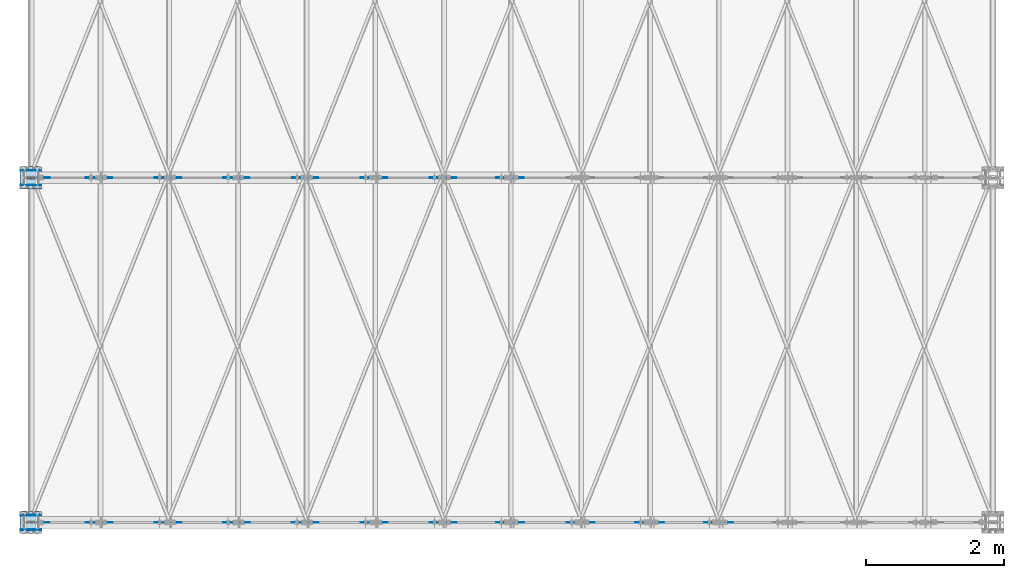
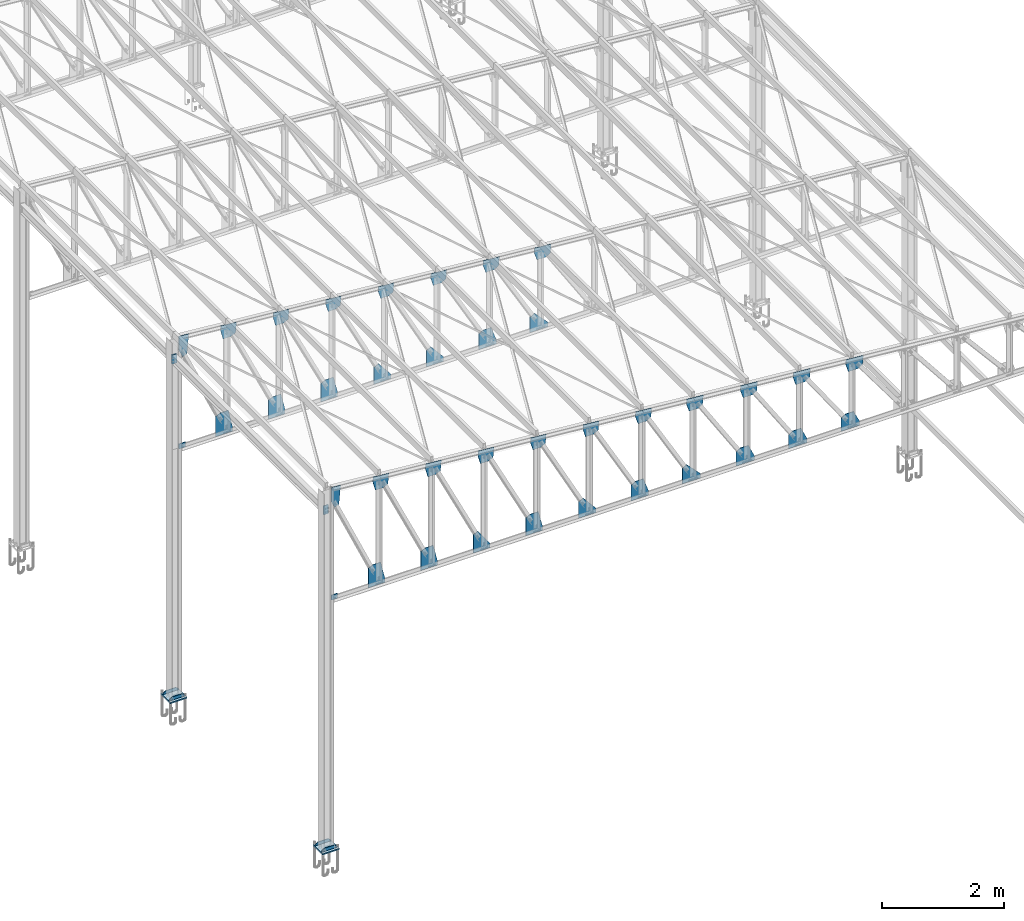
# One storey, part 5 of 251: 47 plates.
"""IFC4 building model written with IfcOpenShell, lengths in metres."""

from ifc_helpers import new_model, si_unit, frame, origin_with_axes, place, context, project, spatial, polyline, outline, extrude, type_object, element, save


model = new_model("IFC4")

# Units and contexts
model_context = context("Model", 3, precision=1e-05, world=origin_with_axes())
ifc_project = project(units=[si_unit("LENGTHUNIT", "METRE"), si_unit("AREAUNIT", "SQUARE_METRE"), si_unit("VOLUMEUNIT", "CUBIC_METRE"), si_unit("MASSUNIT", "GRAM", prefix="KILO"), si_unit("TIMEUNIT", "SECOND"), si_unit("PLANEANGLEUNIT", "RADIAN"), si_unit("SOLIDANGLEUNIT", "STERADIAN"), si_unit("THERMODYNAMICTEMPERATUREUNIT", "DEGREE_CELSIUS")], contexts=[model_context])

# Site, building, storey
placement_1 = place(None, origin_with_axes())
site = spatial("IfcSite", under=ifc_project, at=placement_1, Name="Italia", CompositionType="ELEMENT")
building = spatial("IfcBuilding", under=site, at=placement_1, Name="Deposito", CompositionType="ELEMENT")
storey = spatial("IfcBuildingStorey", under=building, at=placement_1, Name="Storey 0", CompositionType="ELEMENT", Elevation=0.0)

# Plates
plate_type_1 = type_object("IfcPlateType", Name="Collegamento -069_-070", PredefinedType="SHEET")
placement_2 = place(placement_1, origin_with_axes())
plate_1_placement = place(placement_2, origin_with_axes())
element("IfcPlate", 1, at=plate_1_placement, inside=storey, type_object=plate_type_1, Name="Collegamento -069_-070", context=model_context, shape_type="SweptSolid", body=[
    extrude(outline(polyline([(0.0, 0.0), (-0.0909996, 0.0), (-0.0909996, 0.18), (0.0, 0.18), (0.0, 0.0)])), frame((6.0955, 0.018, 6.73018), z_axis=(0.0, -1.0, 0.0), x_axis=(1.0, 0.0, 0.0)), (0.0, 0.0, 1.0), 0.015),
])
plate_type_2 = type_object("IfcPlateType", Name="Collegamento -070_-069", PredefinedType="SHEET")
plate_2_placement = place(placement_2, origin_with_axes())
element("IfcPlate", 2, at=plate_2_placement, inside=storey, type_object=plate_type_2, Name="Collegamento -070_-069", context=model_context, shape_type="SweptSolid", body=[
    extrude(outline(polyline([(0.0, 0.0), (-0.0909996, 0.0), (-0.0909996, 0.18), (0.0, 0.18), (0.0, 0.0)])), frame((6.0045, 4.982, 6.73018), z_axis=(0.0, 1.0, 0.0), x_axis=(-1.0, 0.0, 0.0)), (0.0, 0.0, 1.0), 0.0149999),
])
plate_type_3 = type_object("IfcPlateType", Name="Collegamento -070_-071", PredefinedType="SHEET")
plate_3_placement = place(placement_2, origin_with_axes())
element("IfcPlate", 3, at=plate_3_placement, inside=storey, type_object=plate_type_3, Name="Collegamento -070_-071", context=model_context, shape_type="SweptSolid", body=[
    extrude(outline(polyline([(0.0, 0.0), (-0.0909996, 0.0), (-0.0909996, 0.18), (0.0, 0.18), (0.0, 0.0)])), frame((6.0955, 5.018, 6.73018), z_axis=(0.0, -1.0, 0.0), x_axis=(1.0, 0.0, 0.0)), (0.0, 0.0, 1.0), 0.0149999),
])
plate_type_4 = type_object("IfcPlateType", Name="Collegamenti 0014_-001 0016_-054 0018_-056 0032_-002 0033_-058 0047_-003 0048_-060 0062_-004 0063_-005 0079_-008", PredefinedType="SHEET")
plate_4_placement = place(placement_2, origin_with_axes())
element("IfcPlate", 4, at=plate_4_placement, inside=storey, type_object=plate_type_4, Name="Collegamenti 0014_-001 0016_-054 0018_-056 0032_-002 0033_-058 0047_-003 0048_-060 0062_-004 0063_-005 0079_-008", context=model_context, shape_type="SweptSolid", body=[
    extrude(outline(polyline([(0.0, 0.0), (0.32, 0.0), (0.32, -0.32), (0.0, -0.32), (0.0, 0.0)])), frame((6.21, -0.16, 0.075), z_axis=(0.0, 0.0, -1.0), x_axis=(0.0, 1.0, 0.0)), (0.0, 0.0, 1.0), 0.025),
])
plate_type_5 = type_object("IfcPlateType", Name="Collegamenti 0014_-001 0016_-054 0018_-056 0032_-002 0033_-058 0047_-003 0048_-060 0062_-004 0063_-005 0079_-008", PredefinedType="SHEET")
plate_5_placement = place(placement_2, origin_with_axes())
element("IfcPlate", 5, at=plate_5_placement, inside=storey, type_object=plate_type_5, Name="Collegamenti 0014_-001 0016_-054 0018_-056 0032_-002 0033_-058 0047_-003 0048_-060 0062_-004 0063_-005 0079_-008", context=model_context, shape_type="SweptSolid", body=[
    extrude(outline(polyline([(0.0, 0.0), (0.0550003, 0.04), (0.244999, 0.04), (0.299999, 0.0), (0.299999, -0.02), (0.0, -0.02), (0.0, 0.0)])), frame((6.2, 0.1, 0.095), z_axis=(0.0, 1.0, 0.0), x_axis=(-1.0, 0.0, 0.0)), (0.0, 0.0, 1.0), 0.01),
])
plate_type_6 = type_object("IfcPlateType", Name="Collegamenti 0014_-001 0016_-054 0018_-056 0032_-002 0033_-058 0047_-003 0048_-060 0062_-004 0063_-005 0079_-008", PredefinedType="SHEET")
plate_6_placement = place(placement_2, origin_with_axes())
element("IfcPlate", 6, at=plate_6_placement, inside=storey, type_object=plate_type_6, Name="Collegamenti 0014_-001 0016_-054 0018_-056 0032_-002 0033_-058 0047_-003 0048_-060 0062_-004 0063_-005 0079_-008", context=model_context, shape_type="SweptSolid", body=[
    extrude(outline(polyline([(0.0, 0.0), (0.0550003, 0.04), (0.244999, 0.04), (0.299999, 0.0), (0.299999, -0.02), (0.0, -0.02), (0.0, 0.0)])), frame((6.2, -0.11, 0.095), z_axis=(0.0, 1.0, 0.0), x_axis=(-1.0, 0.0, 0.0)), (0.0, 0.0, 1.0), 0.01),
])
plate_type_7 = type_object("IfcPlateType", Name="Collegamenti 0014_-001 0016_-054 0018_-056 0032_-002 0033_-058 0047_-003 0048_-060 0062_-004 0063_-005 0079_-008", PredefinedType="SHEET")
plate_7_placement = place(placement_2, origin_with_axes())
element("IfcPlate", 7, at=plate_7_placement, inside=storey, type_object=plate_type_7, Name="Collegamenti 0014_-001 0016_-054 0018_-056 0032_-002 0033_-058 0047_-003 0048_-060 0062_-004 0063_-005 0079_-008", context=model_context, shape_type="SweptSolid", body=[
    extrude(outline(polyline([(0.0, 0.0), (0.32, 0.0), (0.32, -0.32), (0.0, -0.32), (0.0, 0.0)])), frame((6.21, 4.84, 0.075), z_axis=(0.0, 0.0, -1.0), x_axis=(0.0, 1.0, 0.0)), (0.0, 0.0, 1.0), 0.025),
])
plate_type_8 = type_object("IfcPlateType", Name="Collegamenti 0014_-001 0016_-054 0018_-056 0032_-002 0033_-058 0047_-003 0048_-060 0062_-004 0063_-005 0079_-008", PredefinedType="SHEET")
plate_8_placement = place(placement_2, origin_with_axes())
element("IfcPlate", 8, at=plate_8_placement, inside=storey, type_object=plate_type_8, Name="Collegamenti 0014_-001 0016_-054 0018_-056 0032_-002 0033_-058 0047_-003 0048_-060 0062_-004 0063_-005 0079_-008", context=model_context, shape_type="SweptSolid", body=[
    extrude(outline(polyline([(0.0, 0.0), (0.0550003, 0.04), (0.244999, 0.04), (0.299999, 0.0), (0.299999, -0.02), (0.0, -0.02), (0.0, 0.0)])), frame((6.2, 5.1, 0.095), z_axis=(0.0, 1.0, 0.0), x_axis=(-1.0, 0.0, 0.0)), (0.0, 0.0, 1.0), 0.0100002),
])
plate_type_9 = type_object("IfcPlateType", Name="Collegamenti 0014_-001 0016_-054 0018_-056 0032_-002 0033_-058 0047_-003 0048_-060 0062_-004 0063_-005 0079_-008", PredefinedType="SHEET")
plate_9_placement = place(placement_2, origin_with_axes())
element("IfcPlate", 9, at=plate_9_placement, inside=storey, type_object=plate_type_9, Name="Collegamenti 0014_-001 0016_-054 0018_-056 0032_-002 0033_-058 0047_-003 0048_-060 0062_-004 0063_-005 0079_-008", context=model_context, shape_type="SweptSolid", body=[
    extrude(outline(polyline([(0.0, 0.0), (0.0550003, 0.04), (0.244999, 0.04), (0.299999, 0.0), (0.299999, -0.02), (0.0, -0.02), (0.0, 0.0)])), frame((6.2, 4.89, 0.095), z_axis=(0.0, 1.0, 0.0), x_axis=(-1.0, 0.0, 0.0)), (0.0, 0.0, 1.0), 0.0100002),
])
plate_type_10 = type_object("IfcPlateType", Name="Reticolare 2", PredefinedType="SHEET")
plate_10_placement = place(placement_2, origin_with_axes())
element("IfcPlate", 10, at=plate_10_placement, inside=storey, type_object=plate_type_10, Name="Reticolare 2", context=model_context, shape_type="SweptSolid", body=[
    extrude(outline(polyline([(0.0, 0.0), (-0.12105, 0.0), (-0.12105, 0.100517), (0.0, 0.100517), (0.0, 0.0)])), frame((6.26605, 0.005, 4.97748), z_axis=(0.0, -1.0, 0.0), x_axis=(1.0, 0.0, 0.0)), (0.0, 0.0, 1.0), 0.01),
])
plate_type_11 = type_object("IfcPlateType", Name="Reticolare 2", PredefinedType="SHEET")
plate_11_placement = place(placement_2, origin_with_axes())
element("IfcPlate", 11, at=plate_11_placement, inside=storey, type_object=plate_type_11, Name="Reticolare 2", context=model_context, shape_type="SweptSolid", body=[
    extrude(outline(polyline([(0.0, 0.0), (-0.313554, 0.0), (-0.313554, 0.39325), (-0.222368, 0.434299), (-0.0784831, 0.434299), (0.0, 0.0899997), (0.0, 0.0)])), frame((7.16047, 0.005, 4.97748), z_axis=(0.0, -1.0, 0.0), x_axis=(1.0, 0.0, 0.0)), (0.0, 0.0, 1.0), 0.01),
])
plate_type_12 = type_object("IfcPlateType", Name="Reticolare 2", PredefinedType="SHEET")
plate_12_placement = place(placement_2, origin_with_axes())
element("IfcPlate", 12, at=plate_12_placement, inside=storey, type_object=plate_type_12, Name="Reticolare 2", context=model_context, shape_type="SweptSolid", body=[
    extrude(outline(polyline([(0.0, 0.0), (0.0906053, 0.0423155), (0.236182, 0.0423155), (0.314665, -0.291757), (0.314665, -0.381756), (0.0, -0.381756), (0.0, 0.0)])), frame((7.842, 0.005, 5.35924), z_axis=(0.0, -1.0, 0.0), x_axis=(1.0, 0.0, 0.0)), (0.0, 0.0, 1.0), 0.01),
])
plate_type_13 = type_object("IfcPlateType", Name="Reticolare 2", PredefinedType="SHEET")
plate_13_placement = place(placement_2, origin_with_axes())
element("IfcPlate", 13, at=plate_13_placement, inside=storey, type_object=plate_type_13, Name="Reticolare 2", context=model_context, shape_type="SweptSolid", body=[
    extrude(outline(polyline([(0.0, 0.0), (-0.315924, 0.0), (-0.315924, 0.36909), (-0.226016, 0.412868), (0.0, 0.0899997), (0.0, 0.0)])), frame((9.15286, 0.005, 4.97748), z_axis=(0.0, -1.0, 0.0), x_axis=(1.0, 0.0, 0.0)), (0.0, 0.0, 1.0), 0.01),
])
plate_type_14 = type_object("IfcPlateType", Name="Reticolare 2", PredefinedType="SHEET")
plate_14_placement = place(placement_2, origin_with_axes())
element("IfcPlate", 14, at=plate_14_placement, inside=storey, type_object=plate_type_14, Name="Reticolare 2", context=model_context, shape_type="SweptSolid", body=[
    extrude(outline(polyline([(0.0, 0.0), (-0.317234, 0.0), (-0.317234, 0.356284), (-0.2281, 0.401618), (-0.0784826, 0.401618), (0.0, 0.0899997), (0.0, 0.0)])), frame((10.1491, 0.005, 4.97748), z_axis=(0.0, -1.0, 0.0), x_axis=(1.0, 0.0, 0.0)), (0.0, 0.0, 1.0), 0.01),
])
plate_type_15 = type_object("IfcPlateType", Name="Reticolare 2", PredefinedType="SHEET")
plate_15_placement = place(placement_2, origin_with_axes())
element("IfcPlate", 15, at=plate_15_placement, inside=storey, type_object=plate_type_15, Name="Reticolare 2", context=model_context, shape_type="SweptSolid", body=[
    extrude(outline(polyline([(0.0, 0.0), (-0.328134, 0.0), (-0.328134, 0.327425), (-0.23986, 0.374413), (0.0, 0.0899997), (0.0, 0.0)])), frame((11.1632, 0.005, 4.97748), z_axis=(0.0, -1.0, 0.0), x_axis=(1.0, 0.0, 0.0)), (0.0, 0.0, 1.0), 0.01),
])
plate_type_16 = type_object("IfcPlateType", Name="Reticolare 2", PredefinedType="SHEET")
plate_16_placement = place(placement_2, origin_with_axes())
element("IfcPlate", 16, at=plate_16_placement, inside=storey, type_object=plate_type_16, Name="Reticolare 2", context=model_context, shape_type="SweptSolid", body=[
    extrude(outline(polyline([(0.0, 0.0), (-0.329223, 0.0), (-0.329223, 0.314454), (-0.241909, 0.3632), (-0.0964823, 0.3632), (0.0, 0.0899997), (0.0, 0.0)])), frame((12.1594, 0.005, 4.97748), z_axis=(0.0, -1.0, 0.0), x_axis=(1.0, 0.0, 0.0)), (0.0, 0.0, 1.0), 0.01),
])
plate_type_17 = type_object("IfcPlateType", Name="Reticolare 2", PredefinedType="SHEET")
plate_17_placement = place(placement_2, origin_with_axes())
element("IfcPlate", 17, at=plate_17_placement, inside=storey, type_object=plate_type_17, Name="Reticolare 2", context=model_context, shape_type="SweptSolid", body=[
    extrude(outline(polyline([(0.0, 0.0), (-0.344739, 0.0), (-0.344739, 0.308363), (-0.257909, 0.357966), (0.0, 0.0899997), (0.0, 0.0)])), frame((13.144, 0.005, 4.97748), z_axis=(0.0, -1.0, 0.0), x_axis=(1.0, 0.0, 0.0)), (0.0, 0.0, 1.0), 0.01),
])
plate_type_18 = type_object("IfcPlateType", Name="Reticolare 2", PredefinedType="SHEET")
plate_18_placement = place(placement_2, origin_with_axes())
element("IfcPlate", 18, at=plate_18_placement, inside=storey, type_object=plate_type_18, Name="Reticolare 2", context=model_context, shape_type="SweptSolid", body=[
    extrude(outline(polyline([(0.0, 0.0), (-0.347019, 0.0), (-0.347019, 0.281458), (-0.262612, 0.33508), (-0.111483, 0.33508), (0.0, 0.0899997), (0.0, 0.0)])), frame((14.1668, 0.005, 4.97748), z_axis=(0.0, -1.0, 0.0), x_axis=(1.0, 0.0, 0.0)), (0.0, 0.0, 1.0), 0.01),
])
plate_type_19 = type_object("IfcPlateType", Name="Reticolare 2", PredefinedType="SHEET")
plate_19_placement = place(placement_2, origin_with_axes())
element("IfcPlate", 19, at=plate_19_placement, inside=storey, type_object=plate_type_19, Name="Reticolare 2", context=model_context, shape_type="SweptSolid", body=[
    extrude(outline(polyline([(0.0, 0.0), (-0.347613, 0.0), (-0.347613, 0.27439), (-0.263927, 0.329132), (-0.111483, 0.329132), (0.0, 0.0899997), (0.0, 0.0)])), frame((15.163, 0.005, 4.97748), z_axis=(0.0, -1.0, 0.0), x_axis=(1.0, 0.0, 0.0)), (0.0, 0.0, 1.0), 0.01),
])
plate_type_20 = type_object("IfcPlateType", Name="Reticolare 2", PredefinedType="SHEET")
plate_20_placement = place(placement_2, origin_with_axes())
element("IfcPlate", 20, at=plate_20_placement, inside=storey, type_object=plate_type_20, Name="Reticolare 2", context=model_context, shape_type="SweptSolid", body=[
    extrude(outline(polyline([(0.0, 0.0), (-0.348755, 0.0), (-0.348755, 0.260579), (-0.266594, 0.317585), (-0.111485, 0.317585), (0.0, 0.0899997), (0.0, 0.0)])), frame((16.1592, 0.005, 4.97748), z_axis=(0.0, -1.0, 0.0), x_axis=(1.0, 0.0, 0.0)), (0.0, 0.0, 1.0), 0.01),
])
plate_type_21 = type_object("IfcPlateType", Name="Reticolare 2", PredefinedType="SHEET")
plate_21_placement = place(placement_2, origin_with_axes())
element("IfcPlate", 21, at=plate_21_placement, inside=storey, type_object=plate_type_21, Name="Reticolare 2", context=model_context, shape_type="SweptSolid", body=[
    extrude(outline(polyline([(0.0, 0.0), (0.327069, -0.0286155), (0.312547, -0.194606), (0.232112, -0.254023), (0.041132, -0.254023), (-0.00784492, -0.0896578), (0.0, 0.0)])), frame((15.9066, 0.005, 6.38073), z_axis=(0.0, -1.0, 0.0), x_axis=(1.0, 0.0, 0.0)), (0.0, 0.0, 1.0), 0.01),
])
plate_type_22 = type_object("IfcPlateType", Name="Reticolare 2", PredefinedType="SHEET")
plate_22_placement = place(placement_2, origin_with_axes())
element("IfcPlate", 22, at=plate_22_placement, inside=storey, type_object=plate_type_22, Name="Reticolare 2", context=model_context, shape_type="SweptSolid", body=[
    extrude(outline(polyline([(0.0, 0.0), (0.319398, -0.0279436), (0.304669, -0.196292), (0.222508, -0.253298), (0.041132, -0.253298), (-0.00784397, -0.0896573), (0.0, 0.0)])), frame((14.9104, 0.005, 6.46788), z_axis=(0.0, -1.0, 0.0), x_axis=(1.0, 0.0, 0.0)), (0.0, 0.0, 1.0), 0.01),
])
plate_type_23 = type_object("IfcPlateType", Name="Reticolare 2", PredefinedType="SHEET")
plate_23_placement = place(placement_2, origin_with_axes())
element("IfcPlate", 23, at=plate_23_placement, inside=storey, type_object=plate_type_23, Name="Reticolare 2", context=model_context, shape_type="SweptSolid", body=[
    extrude(outline(polyline([(0.0, 0.0), (-0.0149136, -0.170458), (-0.0985994, -0.2252), (-0.271422, -0.2252), (-0.325274, -0.0621495), (-0.317634, 0.0275254), (-0.196971, 0.0172324), (0.0, 0.0)])), frame((14.2268, 0.005, 6.5277), z_axis=(0.0, -1.0, 0.0), x_axis=(1.0, 0.0, 0.0)), (0.0, 0.0, 1.0), 0.01),
])
plate_type_24 = type_object("IfcPlateType", Name="Reticolare 2", PredefinedType="SHEET")
plate_24_placement = place(placement_2, origin_with_axes())
element("IfcPlate", 24, at=plate_24_placement, inside=storey, type_object=plate_type_24, Name="Reticolare 2", context=model_context, shape_type="SweptSolid", body=[
    extrude(outline(polyline([(0.0, 0.0), (0.313652, -0.0272665), (0.299024, -0.198937), (0.214616, -0.252559), (0.0460606, -0.252559), (-0.00805664, -0.0896382), (0.0, 0.0)])), frame((12.8865, 0.005, 6.6429), z_axis=(0.0, -1.0, 0.0), x_axis=(1.0, 0.0, 0.0)), (0.0, 0.0, 1.0), 0.01),
])
plate_type_25 = type_object("IfcPlateType", Name="Reticolare 2", PredefinedType="SHEET")
plate_25_placement = place(placement_2, origin_with_axes())
element("IfcPlate", 25, at=plate_25_placement, inside=storey, type_object=plate_type_25, Name="Reticolare 2", context=model_context, shape_type="SweptSolid", body=[
    extrude(outline(polyline([(0.0, 0.0), (-0.0157042, -0.174694), (-0.102534, -0.224296), (-0.257545, -0.224296), (-0.311526, -0.0626369), (-0.303682, 0.0270209), (-0.183041, 0.0164542), (0.0, 0.0)])), frame((12.2205, 0.005, 6.70277), z_axis=(0.0, -1.0, 0.0), x_axis=(1.0, 0.0, 0.0)), (0.0, 0.0, 1.0), 0.01),
])
plate_type_26 = type_object("IfcPlateType", Name="Reticolare 2", PredefinedType="SHEET")
plate_26_placement = place(placement_2, origin_with_axes())
element("IfcPlate", 26, at=plate_26_placement, inside=storey, type_object=plate_type_26, Name="Reticolare 2", context=model_context, shape_type="SweptSolid", body=[
    extrude(outline(polyline([(0.0, 0.0), (-0.0873137, -0.0487461), (-0.239327, -0.0487461), (-0.288303, 0.11182), (-0.280459, 0.201478), (0.0153627, 0.175597), (0.0, 0.0)])), frame((11.2061, 0.005, 6.61503), z_axis=(0.0, -1.0, 0.0), x_axis=(1.0, 0.0, 0.0)), (0.0, 0.0, 1.0), 0.01),
])
plate_type_27 = type_object("IfcPlateType", Name="Reticolare 2", PredefinedType="SHEET")
plate_27_placement = place(placement_2, origin_with_axes())
element("IfcPlate", 27, at=plate_27_placement, inside=storey, type_object=plate_type_27, Name="Reticolare 2", context=model_context, shape_type="SweptSolid", body=[
    extrude(outline(polyline([(0.0, 0.0), (-0.088274, -0.0469871), (-0.234612, -0.0469871), (-0.283587, 0.112811), (-0.275743, 0.202468), (0.0154839, 0.176989), (0.0, 0.0)])), frame((10.2052, 0.005, 6.70119), z_axis=(0.0, -1.0, 0.0), x_axis=(1.0, 0.0, 0.0)), (0.0, 0.0, 1.0), 0.01),
])
plate_type_28 = type_object("IfcPlateType", Name="Reticolare 2", PredefinedType="SHEET")
plate_28_placement = place(placement_2, origin_with_axes())
element("IfcPlate", 28, at=plate_28_placement, inside=storey, type_object=plate_type_28, Name="Reticolare 2", context=model_context, shape_type="SweptSolid", body=[
    extrude(outline(polyline([(0.0, 0.0), (-0.0891342, -0.0453334), (-0.238751, -0.0453334), (-0.287727, 0.130334), (-0.279883, 0.219992), (0.0169735, 0.19402), (0.0, 0.0)])), frame((9.21313, 0.005, 6.77083), z_axis=(0.0, -1.0, 0.0), x_axis=(1.0, 0.0, 0.0)), (0.0, 0.0, 1.0), 0.01),
])
plate_type_29 = type_object("IfcPlateType", Name="Reticolare 2", PredefinedType="SHEET")
plate_29_placement = place(placement_2, origin_with_axes())
element("IfcPlate", 29, at=plate_29_placement, inside=storey, type_object=plate_type_29, Name="Reticolare 2", context=model_context, shape_type="SweptSolid", body=[
    extrude(outline(polyline([(0.0, 0.0), (-0.0899067, -0.0437794), (-0.237442, -0.0437794), (-0.286417, 0.137344), (-0.278573, 0.227001), (0.0175934, 0.20109), (0.0, 0.0)])), frame((8.21562, 0.005, 6.85097), z_axis=(0.0, -1.0, 0.0), x_axis=(1.0, 0.0, 0.0)), (0.0, 0.0, 1.0), 0.01),
])
plate_type_30 = type_object("IfcPlateType", Name="Reticolare 2", PredefinedType="SHEET")
plate_30_placement = place(placement_2, origin_with_axes())
element("IfcPlate", 30, at=plate_30_placement, inside=storey, type_object=plate_type_30, Name="Reticolare 2", context=model_context, shape_type="SweptSolid", body=[
    extrude(outline(polyline([(0.0, 0.0), (-0.0906053, -0.0423155), (-0.236182, -0.0423155), (-0.285141, 0.144153), (-0.277323, 0.233812), (0.0181966, 0.20799), (0.0, 0.0)])), frame((7.21817, 0.005, 6.93129), z_axis=(0.0, -1.0, 0.0), x_axis=(1.0, 0.0, 0.0)), (0.0, 0.0, 1.0), 0.01),
])
plate_type_31 = type_object("IfcPlateType", Name="Reticolare 2", PredefinedType="SHEET")
plate_31_placement = place(placement_2, origin_with_axes())
element("IfcPlate", 31, at=plate_31_placement, inside=storey, type_object=plate_type_31, Name="Reticolare 2", context=model_context, shape_type="SweptSolid", body=[
    extrude(outline(polyline([(0.0, 0.0), (0.0100002, 0.0), (0.177141, -0.0154471), (0.145072, -0.383209), (0.063004, -0.420153), (0.0, -0.2802), (0.0, 0.0)])), frame((6.145, 0.005, 7.2345), z_axis=(0.0, -1.0, 0.0), x_axis=(1.0, 0.0, 0.0)), (0.0, 0.0, 1.0), 0.01),
])
plate_type_32 = type_object("IfcPlateType", Name="Reticolare 3", PredefinedType="SHEET")
plate_32_placement = place(placement_2, origin_with_axes())
element("IfcPlate", 32, at=plate_32_placement, inside=storey, type_object=plate_type_32, Name="Reticolare 3", context=model_context, shape_type="SweptSolid", body=[
    extrude(outline(polyline([(0.0, 0.0), (-0.12105, 0.0), (-0.12105, 0.100517), (0.0, 0.100517), (0.0, 0.0)])), frame((6.26605, 5.005, 4.97748), z_axis=(0.0, -1.0, 0.0), x_axis=(1.0, 0.0, 0.0)), (0.0, 0.0, 1.0), 0.0100002),
])
plate_type_33 = type_object("IfcPlateType", Name="Reticolare 3", PredefinedType="SHEET")
plate_33_placement = place(placement_2, origin_with_axes())
element("IfcPlate", 33, at=plate_33_placement, inside=storey, type_object=plate_type_33, Name="Reticolare 3", context=model_context, shape_type="SweptSolid", body=[
    extrude(outline(polyline([(0.0, 0.0), (-0.319712, 0.0), (-0.319712, 0.406928), (-0.228526, 0.447978), (-0.0784831, 0.447978), (0.0, 0.0899997), (0.0, 0.0)])), frame((7.16047, 5.005, 4.97748), z_axis=(0.0, -1.0, 0.0), x_axis=(1.0, 0.0, 0.0)), (0.0, 0.0, 1.0), 0.0100002),
])
plate_type_34 = type_object("IfcPlateType", Name="Reticolare 3", PredefinedType="SHEET")
plate_34_placement = place(placement_2, origin_with_axes())
element("IfcPlate", 34, at=plate_34_placement, inside=storey, type_object=plate_type_34, Name="Reticolare 3", context=model_context, shape_type="SweptSolid", body=[
    extrude(outline(polyline([(0.0, 0.0), (0.0906053, 0.0423155), (0.236182, 0.0423155), (0.314665, -0.291757), (0.314665, -0.381756), (0.0, -0.381756), (0.0, 0.0)])), frame((7.842, 5.005, 5.35924), z_axis=(0.0, -1.0, 0.0), x_axis=(1.0, 0.0, 0.0)), (0.0, 0.0, 1.0), 0.0100002),
])
plate_type_35 = type_object("IfcPlateType", Name="Reticolare 3", PredefinedType="SHEET")
plate_35_placement = place(placement_2, origin_with_axes())
element("IfcPlate", 35, at=plate_35_placement, inside=storey, type_object=plate_type_35, Name="Reticolare 3", context=model_context, shape_type="SweptSolid", body=[
    extrude(outline(polyline([(0.0, 0.0), (-0.315924, 0.0), (-0.315924, 0.36909), (-0.226016, 0.412868), (-0.0784826, 0.412868), (0.0, 0.0899997), (0.0, 0.0)])), frame((9.15286, 5.005, 4.97748), z_axis=(0.0, -1.0, 0.0), x_axis=(1.0, 0.0, 0.0)), (0.0, 0.0, 1.0), 0.0100002),
])
plate_type_36 = type_object("IfcPlateType", Name="Reticolare 3", PredefinedType="SHEET")
plate_36_placement = place(placement_2, origin_with_axes())
element("IfcPlate", 36, at=plate_36_placement, inside=storey, type_object=plate_type_36, Name="Reticolare 3", context=model_context, shape_type="SweptSolid", body=[
    extrude(outline(polyline([(0.0, 0.0), (-0.327073, 0.0), (-0.327073, 0.34024), (-0.237939, 0.385573), (0.0, 0.0899997), (0.0, 0.0)])), frame((10.1671, 5.005, 4.97748), z_axis=(0.0, -1.0, 0.0), x_axis=(1.0, 0.0, 0.0)), (0.0, 0.0, 1.0), 0.0100002),
])
plate_type_37 = type_object("IfcPlateType", Name="Reticolare 3", PredefinedType="SHEET")
plate_37_placement = place(placement_2, origin_with_axes())
element("IfcPlate", 37, at=plate_37_placement, inside=storey, type_object=plate_type_37, Name="Reticolare 3", context=model_context, shape_type="SweptSolid", body=[
    extrude(outline(polyline([(0.0, 0.0), (-0.328134, 0.0), (-0.328134, 0.327425), (-0.23986, 0.374413), (0.0, 0.0899997), (0.0, 0.0)])), frame((11.1632, 5.005, 4.97748), z_axis=(0.0, -1.0, 0.0), x_axis=(1.0, 0.0, 0.0)), (0.0, 0.0, 1.0), 0.0100002),
])
plate_type_38 = type_object("IfcPlateType", Name="Reticolare 3", PredefinedType="SHEET")
plate_38_placement = place(placement_2, origin_with_axes())
element("IfcPlate", 38, at=plate_38_placement, inside=storey, type_object=plate_type_38, Name="Reticolare 3", context=model_context, shape_type="SweptSolid", body=[
    extrude(outline(polyline([(0.0, 0.0), (-0.329223, 0.0), (-0.329223, 0.314454), (-0.241909, 0.3632), (-0.0964823, 0.3632), (0.0, 0.0899997), (0.0, 0.0)])), frame((12.1594, 5.005, 4.97748), z_axis=(0.0, -1.0, 0.0), x_axis=(1.0, 0.0, 0.0)), (0.0, 0.0, 1.0), 0.0100002),
])
plate_type_39 = type_object("IfcPlateType", Name="Reticolare 3", PredefinedType="SHEET")
plate_39_placement = place(placement_2, origin_with_axes())
element("IfcPlate", 39, at=plate_39_placement, inside=storey, type_object=plate_type_39, Name="Reticolare 3", context=model_context, shape_type="SweptSolid", body=[
    extrude(outline(polyline([(0.0, 0.0), (-0.344739, 0.0), (-0.344739, 0.308363), (-0.257909, 0.357966), (0.0, 0.0899997), (0.0, 0.0)])), frame((13.144, 5.005, 4.97748), z_axis=(0.0, -1.0, 0.0), x_axis=(1.0, 0.0, 0.0)), (0.0, 0.0, 1.0), 0.0100002),
])
plate_type_40 = type_object("IfcPlateType", Name="Reticolare 3", PredefinedType="SHEET")
plate_40_placement = place(placement_2, origin_with_axes())
element("IfcPlate", 40, at=plate_40_placement, inside=storey, type_object=plate_type_40, Name="Reticolare 3", context=model_context, shape_type="SweptSolid", body=[
    extrude(outline(polyline([(0.0, 0.0), (0.313652, -0.0272665), (0.299024, -0.198937), (0.214616, -0.252559), (0.0460606, -0.252559), (-0.00805664, -0.0896382), (0.0, 0.0)])), frame((12.8865, 5.005, 6.6429), z_axis=(0.0, -1.0, 0.0), x_axis=(1.0, 0.0, 0.0)), (0.0, 0.0, 1.0), 0.0100002),
])
plate_type_41 = type_object("IfcPlateType", Name="Reticolare 3", PredefinedType="SHEET")
plate_41_placement = place(placement_2, origin_with_axes())
element("IfcPlate", 41, at=plate_41_placement, inside=storey, type_object=plate_type_41, Name="Reticolare 3", context=model_context, shape_type="SweptSolid", body=[
    extrude(outline(polyline([(0.0, 0.0), (-0.0157042, -0.174694), (-0.102534, -0.224296), (-0.257545, -0.224296), (-0.311526, -0.0626369), (-0.303682, 0.0270209), (-0.183041, 0.0164542), (0.0, 0.0)])), frame((12.2205, 5.005, 6.70277), z_axis=(0.0, -1.0, 0.0), x_axis=(1.0, 0.0, 0.0)), (0.0, 0.0, 1.0), 0.0100002),
])
plate_type_42 = type_object("IfcPlateType", Name="Reticolare 3", PredefinedType="SHEET")
plate_42_placement = place(placement_2, origin_with_axes())
element("IfcPlate", 42, at=plate_42_placement, inside=storey, type_object=plate_type_42, Name="Reticolare 3", context=model_context, shape_type="SweptSolid", body=[
    extrude(outline(polyline([(0.0, 0.0), (0.295822, -0.0258808), (0.280459, -0.201478), (0.193146, -0.250224), (0.041132, -0.250224), (-0.00784397, -0.0896573), (0.0, 0.0)])), frame((10.9256, 5.005, 6.81651), z_axis=(0.0, -1.0, 0.0), x_axis=(1.0, 0.0, 0.0)), (0.0, 0.0, 1.0), 0.0100002),
])
plate_type_43 = type_object("IfcPlateType", Name="Reticolare 3", PredefinedType="SHEET")
plate_43_placement = place(placement_2, origin_with_axes())
element("IfcPlate", 43, at=plate_43_placement, inside=storey, type_object=plate_type_43, Name="Reticolare 3", context=model_context, shape_type="SweptSolid", body=[
    extrude(outline(polyline([(0.0, 0.0), (0.291227, -0.0254788), (0.275743, -0.202468), (0.187469, -0.249455), (0.041132, -0.249455), (-0.00784397, -0.0896573), (0.0, 0.0)])), frame((9.92944, 5.005, 6.90366), z_axis=(0.0, -1.0, 0.0), x_axis=(1.0, 0.0, 0.0)), (0.0, 0.0, 1.0), 0.0100002),
])
plate_type_44 = type_object("IfcPlateType", Name="Reticolare 3", PredefinedType="SHEET")
plate_44_placement = place(placement_2, origin_with_axes())
element("IfcPlate", 44, at=plate_44_placement, inside=storey, type_object=plate_type_44, Name="Reticolare 3", context=model_context, shape_type="SweptSolid", body=[
    extrude(outline(polyline([(0.0, 0.0), (0.287366, -0.0251417), (0.271723, -0.203948), (0.182589, -0.249281), (0.041132, -0.249281), (-0.00784397, -0.0896578), (0.0, 0.0)])), frame((8.93324, 5.005, 6.99082), z_axis=(0.0, -1.0, 0.0), x_axis=(1.0, 0.0, 0.0)), (0.0, 0.0, 1.0), 0.0100002),
])
plate_type_45 = type_object("IfcPlateType", Name="Reticolare 3", PredefinedType="SHEET")
plate_45_placement = place(placement_2, origin_with_axes())
element("IfcPlate", 45, at=plate_45_placement, inside=storey, type_object=plate_type_45, Name="Reticolare 3", context=model_context, shape_type="SweptSolid", body=[
    extrude(outline(polyline([(0.0, 0.0), (0.296166, -0.0259113), (0.278573, -0.227001), (0.188666, -0.270781), (0.0411315, -0.270781), (-0.00784397, -0.0896573), (0.0, 0.0)])), frame((7.93705, 5.005, 7.07797), z_axis=(0.0, -1.0, 0.0), x_axis=(1.0, 0.0, 0.0)), (0.0, 0.0, 1.0), 0.0100002),
])
plate_type_46 = type_object("IfcPlateType", Name="Reticolare 3", PredefinedType="SHEET")
plate_46_placement = place(placement_2, origin_with_axes())
element("IfcPlate", 46, at=plate_46_placement, inside=storey, type_object=plate_type_46, Name="Reticolare 3", context=model_context, shape_type="SweptSolid", body=[
    extrude(outline(polyline([(0.0, 0.0), (0.295519, -0.0258226), (0.277323, -0.233812), (0.186718, -0.276128), (0.041141, -0.276128), (-0.0078187, -0.0896597), (0.0, 0.0)])), frame((6.94084, 5.005, 7.1651), z_axis=(0.0, -1.0, 0.0), x_axis=(1.0, 0.0, 0.0)), (0.0, 0.0, 1.0), 0.0100002),
])
plate_type_47 = type_object("IfcPlateType", Name="Reticolare 3", PredefinedType="SHEET")
plate_47_placement = place(placement_2, origin_with_axes())
element("IfcPlate", 47, at=plate_47_placement, inside=storey, type_object=plate_type_47, Name="Reticolare 3", context=model_context, shape_type="SweptSolid", body=[
    extrude(outline(polyline([(0.0, 0.0), (0.0100002, 0.0), (0.184436, -0.0160832), (0.151229, -0.396886), (0.0691614, -0.433831), (0.0, -0.2802), (0.0, 0.0)])), frame((6.145, 5.005, 7.2345), z_axis=(0.0, -1.0, 0.0), x_axis=(1.0, 0.0, 0.0)), (0.0, 0.0, 1.0), 0.0100002),
])

save(model, "model.ifc")
